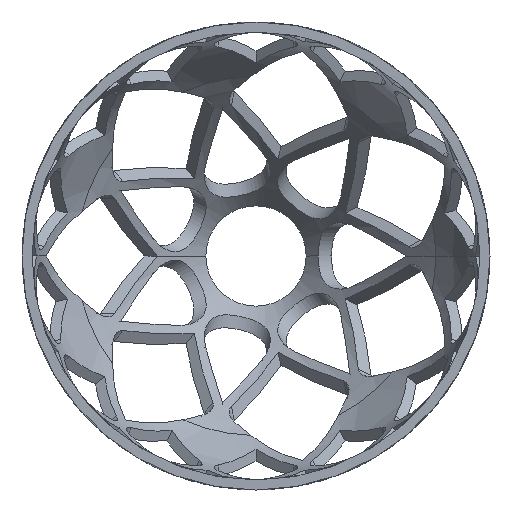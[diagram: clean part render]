
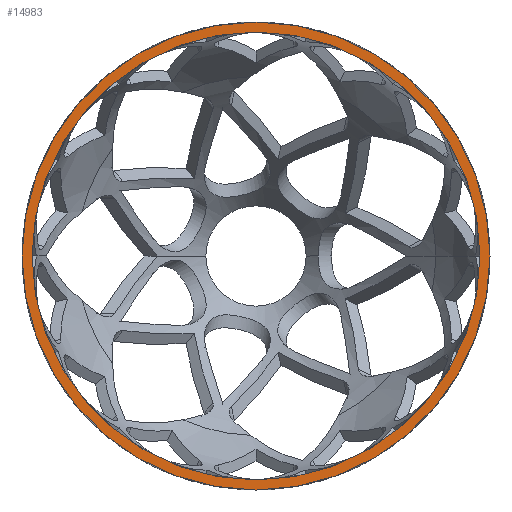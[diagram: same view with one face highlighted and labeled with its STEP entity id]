
A CAD part, left-side view. The second image highlights one B-rep face of the part: STEP entity #14983.
In plain terms, the highlighted planar face has unit normal (-1, 0, 0).
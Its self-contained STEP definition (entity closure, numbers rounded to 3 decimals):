
#1=CARTESIAN_POINT('',(0.,0.,0.));
#2=DIRECTION('',(-1.,0.,0.));
#3=DIRECTION('',(0.,1.,0.));
#4=AXIS2_PLACEMENT_3D('',#1,#2,#3);
#6=CARTESIAN_POINT('',(0.,0.,0.));
#7=DIRECTION('',(1.,0.,0.));
#8=DIRECTION('',(0.,1.,0.));
#9=AXIS2_PLACEMENT_3D('',#6,#7,#8);
#11=CARTESIAN_POINT('',(0.,0.,0.));
#12=DIRECTION('',(-1.,0.,0.));
#13=DIRECTION('',(0.,1.,0.));
#14=AXIS2_PLACEMENT_3D('',#11,#12,#13);
#16=CARTESIAN_POINT('',(0.,0.,0.));
#17=DIRECTION('',(-1.,0.,0.));
#18=DIRECTION('',(0.,-1.,0.));
#19=AXIS2_PLACEMENT_3D('',#16,#17,#18);
#12670=CARTESIAN_POINT('',(0.,35.,0.));
#12671=CARTESIAN_POINT('',(0.,-35.,0.));
#12672=VERTEX_POINT('',#12670);
#12673=VERTEX_POINT('',#12671);
#12674=CARTESIAN_POINT('',(0.,33.5,0.));
#12675=CARTESIAN_POINT('',(0.,-33.5,0.));
#12676=VERTEX_POINT('',#12674);
#12677=VERTEX_POINT('',#12675);
#14966=CARTESIAN_POINT('',(0.,0.,0.));
#14967=DIRECTION('',(-1.,0.,0.));
#14968=DIRECTION('',(0.,1.,0.));
#14969=AXIS2_PLACEMENT_3D('',#14966,#14967,#14968);
#14970=PLANE('',#14969);
#14972=ORIENTED_EDGE('',*,*,#14971,.F.);
#14974=ORIENTED_EDGE('',*,*,#14973,.T.);
#14975=EDGE_LOOP('',(#14972,#14974));
#14976=FACE_OUTER_BOUND('',#14975,.F.);
#14978=ORIENTED_EDGE('',*,*,#14977,.T.);
#14980=ORIENTED_EDGE('',*,*,#14979,.T.);
#14981=EDGE_LOOP('',(#14978,#14980));
#14982=FACE_BOUND('',#14981,.F.);
#14983=ADVANCED_FACE('',(#14976,#14982),#14970,.T.);
#5=CIRCLE('',#4,35.);
#10=CIRCLE('',#9,35.);
#15=CIRCLE('',#14,33.5);
#20=CIRCLE('',#19,33.5);
#14971=EDGE_CURVE('',#12672,#12673,#5,.T.);
#14973=EDGE_CURVE('',#12672,#12673,#10,.T.);
#14977=EDGE_CURVE('',#12676,#12677,#15,.T.);
#14979=EDGE_CURVE('',#12677,#12676,#20,.T.);
